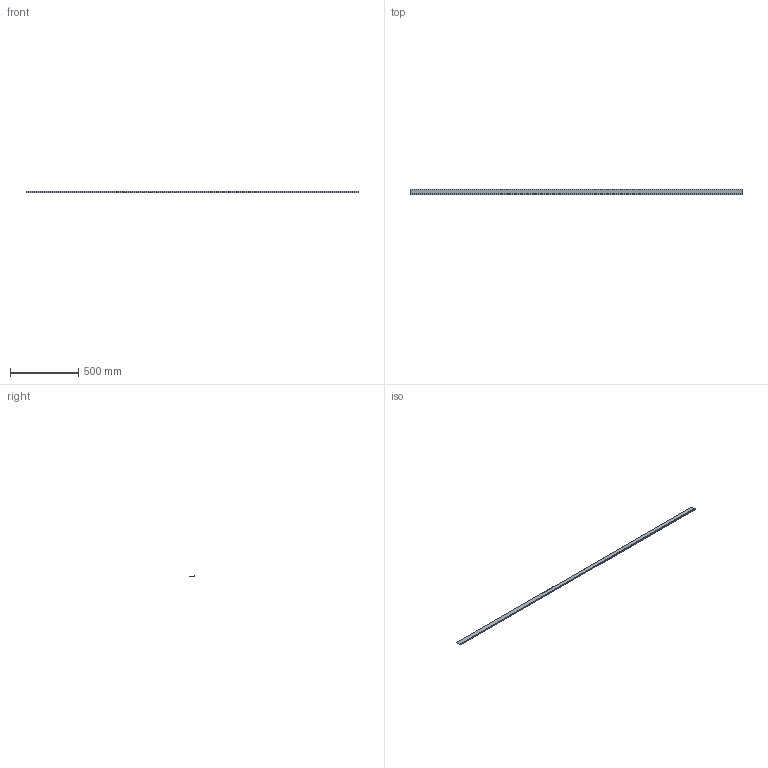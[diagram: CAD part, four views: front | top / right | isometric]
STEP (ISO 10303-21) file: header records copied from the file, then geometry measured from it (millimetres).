
FILE_DESCRIPTION((''),'2;1');
FILE_NAME('P04-05_D','2016-07-28T',('adam.dellomodarme'),(''),'PRO/ENGINEER BY PARAMETRIC TECHNOLOGY CORPORATION, 2012420','PRO/ENGINEER BY PARAMETRIC TECHNOLOGY CORPORATION, 2012420','');
FILE_SCHEMA(('CONFIG_CONTROL_DESIGN'));
Length unit declared in the file: inch
Products named in the file (1): P04-05_D
Bounding box: 2438.4 x 40.13 x 8.38 mm (x, y, z)
Volume: 325050.4 mm3; surface area: 232872.3 mm2
Topology: 1 solids, 1 shells, 22 faces, 60 edges, 40 vertices
Faces by surface type: plane 12, cylinder 10
Entity records: 744 total; most frequent: DIRECTION 124, CARTESIAN_POINT 122, ORIENTED_EDGE 120, EDGE_CURVE 60, AXIS2_PLACEMENT_3D 42, VECTOR 40, LINE 40, VERTEX_POINT 40
